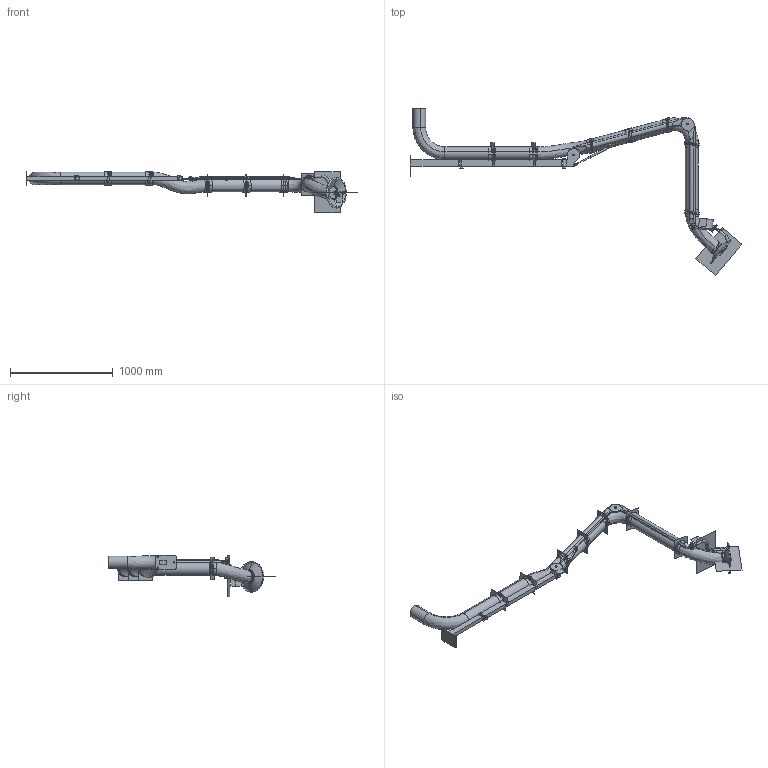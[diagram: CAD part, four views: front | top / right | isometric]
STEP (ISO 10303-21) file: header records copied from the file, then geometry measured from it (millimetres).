
FILE_DESCRIPTION((''),'2;1');
FILE_NAME('131022','2020-01-16T09:38:38',('Tomas Bellgran'),(''),'CREO PARAMETRIC BY PTC INC, 2018260','CREO PARAMETRIC BY PTC INC, 2018260','');
FILE_SCHEMA(('AUTOMOTIVE_DESIGN { 1 0 10303 214 1 1 1 1 }'));
Products named in the file (40): 131085_LIGHT; 131041; 131045_LIGHT; 131045; 144355; 131150; 139381; 131151; 131171; 144356; 131125_LIGHT; 131125; 131111_LIGHT; 131111; 131190_LIGHT; 131190; 130317; ROD_STAB_8-160-REF; 131095; 130322_AF26; 131145; 131131_AF0; 131134_AF0; 131139; 107522; 107552; 139634; 139615; 139614; 139629; 131136; 131137; 131138; 107522_AF4; 107522_AF5; SKRUVSATS_LITEN; SKRUVSATS_BIG; SKRUVSATS_LITEN-2; SKRUVSATS_BIGGEST; 131022
Assembly tree (60 placements, depth 3):
  131022
    131041
      131085_LIGHT
    131045
      131045_LIGHT
    144355  x4
    131150
    131171
      139381
      131151
    144356  x2
    131125
      131125_LIGHT
    131111
      131111_LIGHT
    131190
      131190_LIGHT
    130322_AF26
      130317
      ROD_STAB_8-160-REF
      131095  x2
    131145  x2
    131139  x5
      131131_AF0
      131134_AF0
    107522  x5
    107552
    139629
      139634  x3
      139615
      139614
    131138  x2
      131136
      131137
    107522_AF4
    107522_AF5
    SKRUVSATS_LITEN  x2
    SKRUVSATS_BIG  x2
    SKRUVSATS_LITEN-2  x2
    SKRUVSATS_BIGGEST  x2
Bounding box: 3229.14 x 1623.53 x 404.5 mm (x, y, z)
Volume: 6543458.7 mm3; surface area: 3947635.7 mm2
Topology: 54 solids, 103 shells, 1538 faces, 3576 edges, 2189 vertices
Faces by surface type: cylinder 485, plane 482, bspline 434, torus 90, cone 34, extrusion 13
Entity records: 91066 total; most frequent: CARTESIAN_POINT 43133, POLYLINE 5532, DIRECTION 4517, ORIENTED_EDGE 3878, PRESENTATION_STYLE_ASSIGNMENT 2800, STYLED_ITEM 2757, CURVE_STYLE 2072, EDGE_CURVE 2046
